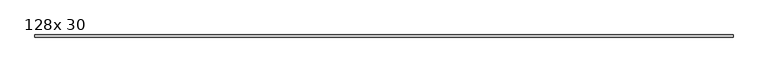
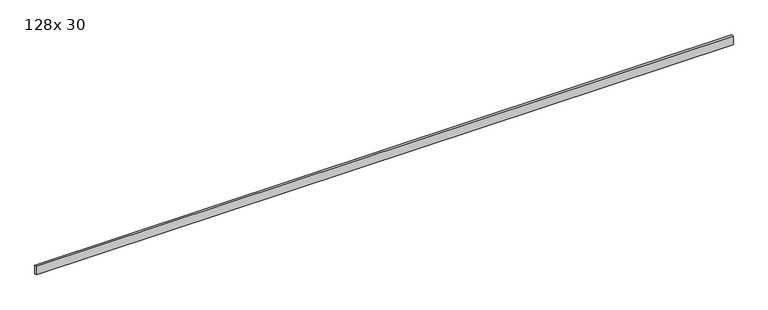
"""IFC4 building model written with IfcOpenShell, lengths in millimetres: beam geometry, Belka drewniana : 128x 30."""

from ifc_helpers import new_model, si_unit, frame, origin, place, context, project, spatial, polyline, outline, extrude, source, transform, mapped, element, save


def beam_128x_30_c98de427(model_context):
    return source(origin(), model_context, "Body", "SweptSolid", [
        extrude(outline(polyline([(5108.0643788, 15.0), (5108.0643788, -15.0), (-4891.9356212, -15.0), (-4891.9356212, 15.0), (5108.0643788, 15.0)])), frame((0.0, 0.0, -64.0), z_axis=(0.0, 0.0, 1.0), x_axis=(1.0, 0.0, 0.0)), (0.0, 0.0, 1.0), 128.0),
    ])


if __name__ == "__main__":
    model = new_model("IFC4")
    model_context = context("Model", 3, world=origin())
    ifc_project = project(units=[si_unit("LENGTHUNIT", "METRE", prefix="MILLI")], contexts=[model_context])
    site = spatial("IfcSite", under=ifc_project)
    building = spatial("IfcBuilding", under=site)
    placement = place(None, origin())
    beam_128x_30_shape = beam_128x_30_c98de427(model_context)
    element("IfcBeam", 1, ObjectType="Belka drewniana : 128x 30", at=placement, inside=building, context=model_context, shape_type="MappedRepresentation", body=[
        mapped(beam_128x_30_shape, transform((0.0, 0.0, 0.0), x_axis=(1.0, 0.0, 0.0), y_axis=(0.0, 1.0, 0.0), z_axis=(0.0, 0.0, 1.0))),
    ])
    save(model, "model.ifc")
